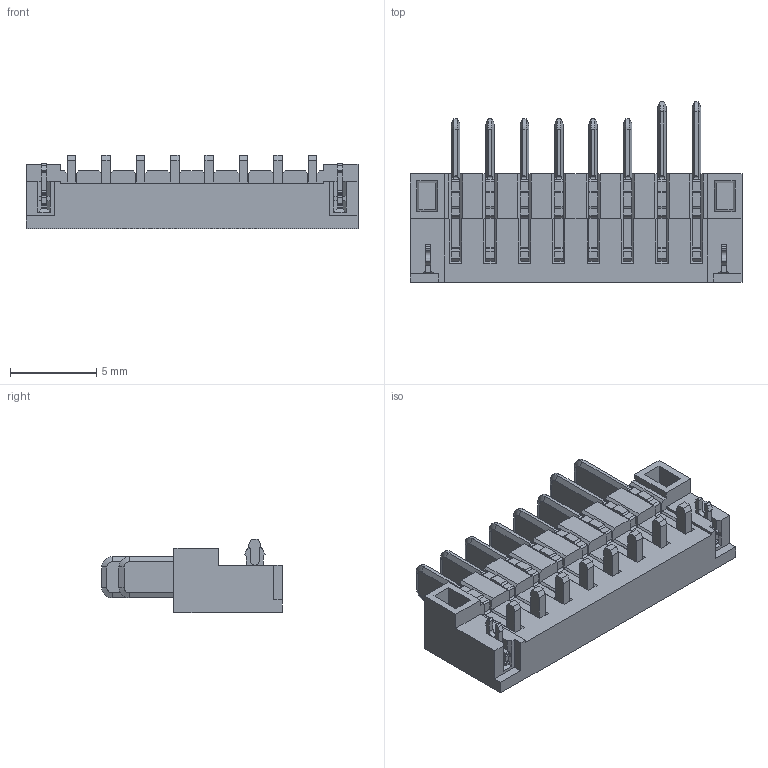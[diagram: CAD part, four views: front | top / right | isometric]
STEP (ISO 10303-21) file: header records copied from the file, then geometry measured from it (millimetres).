
FILE_DESCRIPTION((''),'2;1');
FILE_NAME('ASM0001_ASM','2011-10-24T',('12114032'),(''),'PRO/ENGINEER BY PARAMETRIC TECHNOLOGY CORPORATION, 2010370','PRO/ENGINEER BY PARAMETRIC TECHNOLOGY CORPORATION, 2010370','');
FILE_SCHEMA(('CONFIG_CONTROL_DESIGN'));
Length unit declared in the file: millimetre
Products named in the file (3): 53006-XXXXX-XXX_ASM; LOU; ASM0001_ASM
Assembly tree (2 placements, depth 2):
  ASM0001_ASM
    53006-XXXXX-XXX_ASM
    LOU
Bounding box: 19.3 x 10.5 x 4.25 mm (x, y, z)
Volume: 322.9 mm3; surface area: 1117.6 mm2
Topology: 1 solids, 1 shells, 859 faces, 2650 edges, 1728 vertices
Faces by surface type: plane 625, cylinder 202, cone 32
Entity records: 29479 total; most frequent: CARTESIAN_POINT 5417, ORIENTED_EDGE 5260, DIRECTION 4775, EDGE_CURVE 2630, VECTOR 2155, LINE 2155, VERTEX_POINT 1696, AXIS2_PLACEMENT_3D 1310
